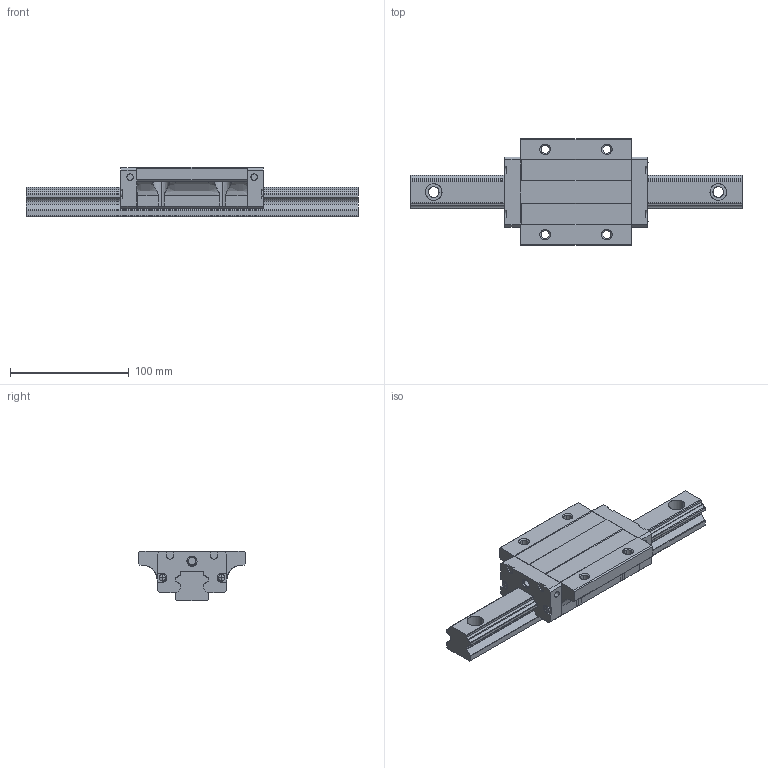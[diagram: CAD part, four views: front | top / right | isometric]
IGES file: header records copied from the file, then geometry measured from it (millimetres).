
Start section: START RECORD GO HERE.
Global section: file name: SBG30_FLL.igs; native system: IBM CATIA IGES - CATIA Version 5 Release 16 ; preprocessor: CATIA Version 5 Release 16 ; author: mycom; organization: RD03; date: 20070318.185513; units: millimetre
Bounding box: 280 x 90 x 42 mm (x, y, z)
Surface area: 80374.4 mm2 (no closed solid volume)
Topology: 0 solids, 0 shells, 324 faces, 1752 edges, 1748 vertices
Faces by surface type: revolution 160, plane 140, extrusion 24
